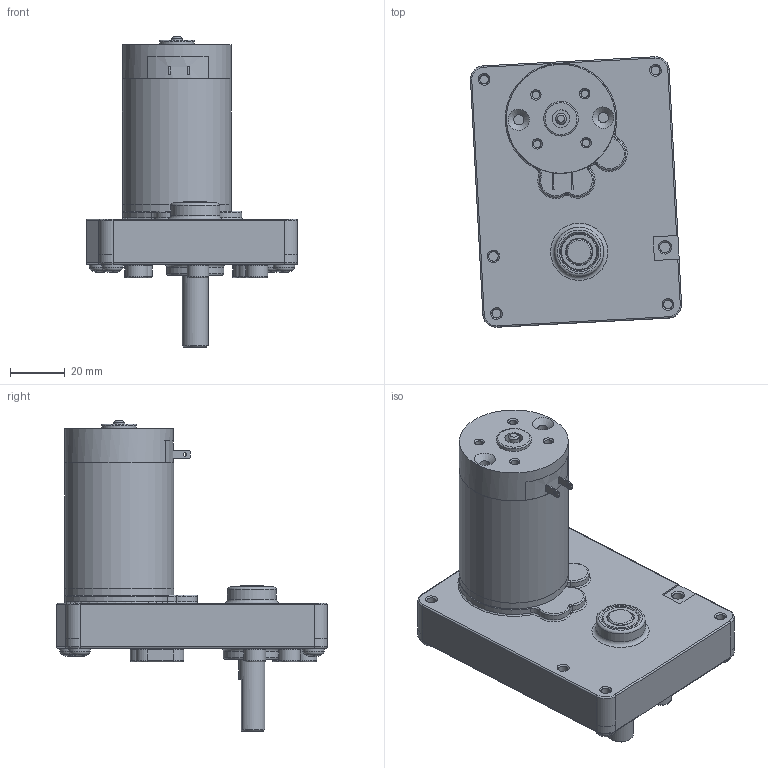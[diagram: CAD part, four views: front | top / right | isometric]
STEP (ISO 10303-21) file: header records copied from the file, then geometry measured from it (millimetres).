
FILE_DESCRIPTION(/* description */ (''),/* implementation_level */ '2;1');
FILE_NAME(/* name */ 'C:\Users\byjeong\Desktop\3D도면\SP44BT.stp',/* time_stamp */ '2015-03-31T15:20:33+09:00',/* author */ ('byjeong'),/* organization */ (''),/* preprocessor_version */ 'ST-DEVELOPER v15.6',/* originating_system */ 'Autodesk Inventor 2015',/* authorisation */ '');
FILE_SCHEMA (('AUTOMOTIVE_DESIGN { 1 0 10303 214 3 1 1 }'));
Length unit declared in the file: millimetre
Products named in the file (9): SQ BOX ASSY; RM4TYPE_BRUSH_BRAKET_TERMINAL; RM4TYPE_REAR_HOUSING; REAR_HOUSING__ASS'Y_TERMINAL; RM4TYPE_FRONT_HOUSING_; RM44TYPE_SHAFT; RM4TYPE_PIPE_HOUSING_pi40XL45.9; RM44ㅁBT; 조립품23
Bounding box: 77.42 x 99.18 x 113.87 mm (x, y, z)
Volume: 148071.7 mm3; surface area: 46243.1 mm2
Topology: 10 solids, 10 shells, 390 faces, 883 edges, 552 vertices
Faces by surface type: plane 124, cylinder 102, cone 87, torus 70, sphere 4, bspline 3
Full cylindrical faces by diameter (mm): 1.2 x2, 2.7 x4, 2.8 x4, 3.3 x4, 3.4 x3, 3.5 x1, 3.571 x3, 3.7 x2, 3.9 x1, 3.969 x1, 4 x10, 4.4 x3, 5 x1, 6.5 x1, 6.65 x1, 8 x5, 9.5 x3, 12.7 x3, 13.5 x2, 14.3 x1, 18 x1, 21 x1, 36.5 x1, 40 x3
Entity records: 10811 total; most frequent: CARTESIAN_POINT 2458, DIRECTION 1816, ORIENTED_EDGE 1444, AXIS2_PLACEMENT_3D 820, EDGE_CURVE 722, EDGE_LOOP 603, VERTEX_POINT 527, CIRCLE 416
